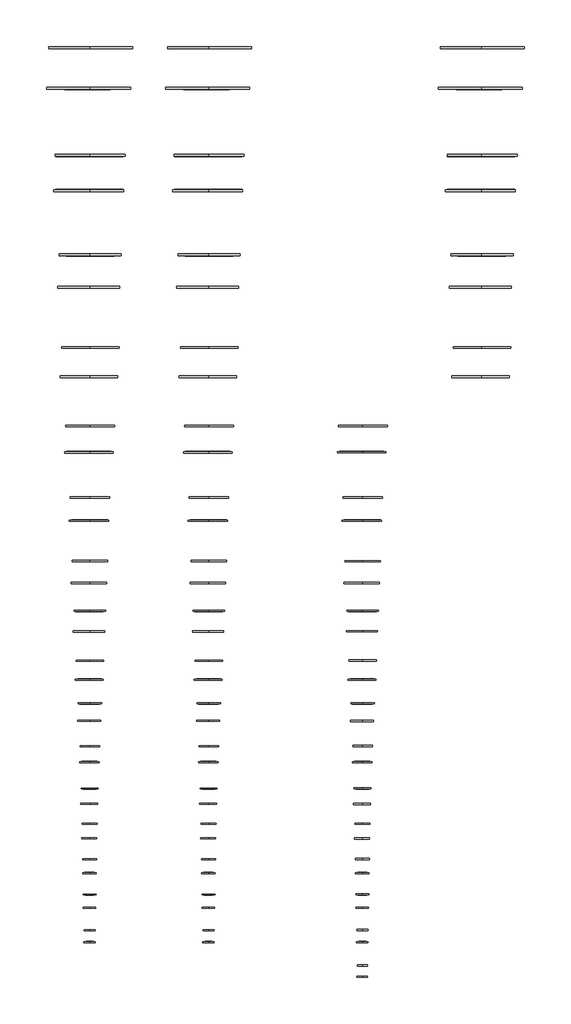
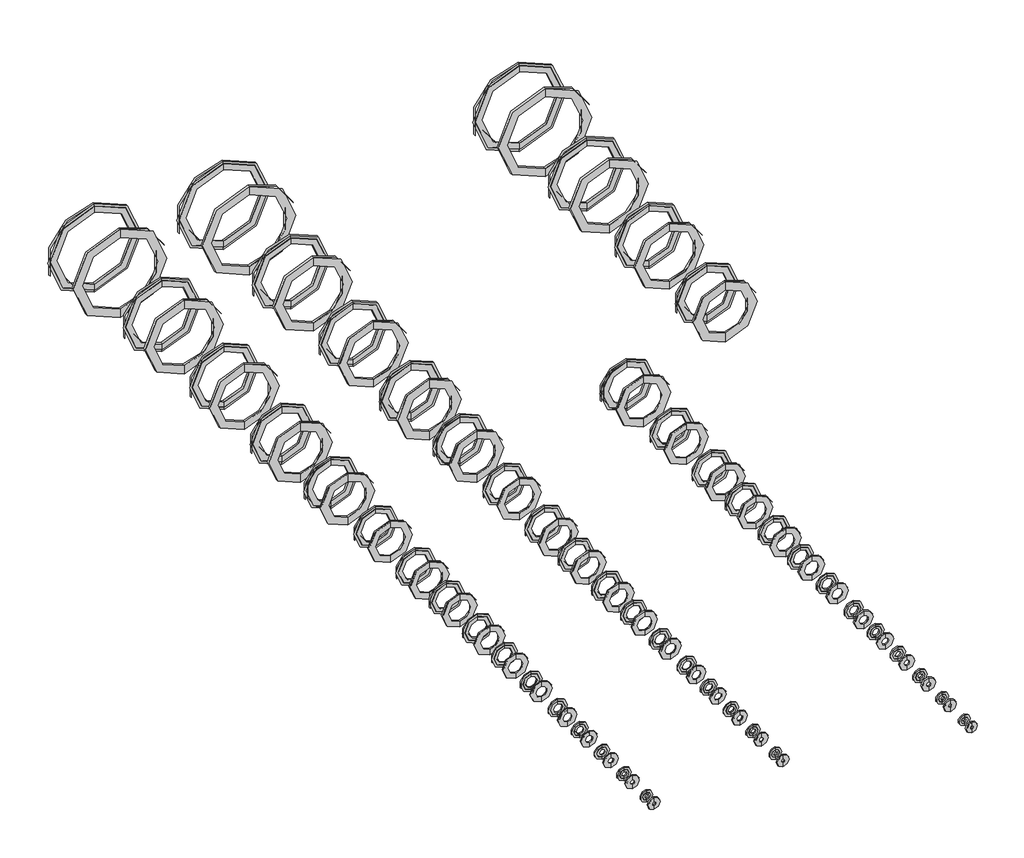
# One storey, incomplete: 98 pipe fittings.
"""IFC4 building model written with IfcOpenShell, lengths in millimetres."""

from ifc_helpers import new_model, si_unit, origin, place, context, project, spatial, transform, mapped, element, save
from components import pipe_fitting_ad0cda32, pipe_fitting_8ab3f06a, pipe_fitting_fec01fe7, pipe_fitting_0825bf11, pipe_fitting_f6bf362b, pipe_fitting_40df0e78, pipe_fitting_5c22ef08, pipe_fitting_ef6f4ca0, pipe_fitting_4f8dd1ce, pipe_fitting_00dcc9c6, pipe_fitting_479de25e, pipe_fitting_1e0624fc, pipe_fitting_c8a951b9, pipe_fitting_ccbc936c, pipe_fitting_422aa475, pipe_fitting_c62836a1, pipe_fitting_5b0ad892, pipe_fitting_62fc1cb5, pipe_fitting_9c8cf8b4, pipe_fitting_800c468c, pipe_fitting_22e410b1, pipe_fitting_1b7cc539, pipe_fitting_52b01f8b, pipe_fitting_8b49ddb3, pipe_fitting_f310c70f, pipe_fitting_f0c44933, pipe_fitting_e0bd70e7, pipe_fitting_f1d31873, pipe_fitting_2007be06

model = new_model("IFC4")

# Units and contexts
model_context = context("Model", 3, world=origin())
ifc_project = project(units=[si_unit("LENGTHUNIT", "METRE", prefix="MILLI")], contexts=[model_context])

# Site, building, storey
site = spatial("IfcSite", under=ifc_project)
building = spatial("IfcBuilding", under=site)
storey = spatial("IfcBuildingStorey", under=building, Name="Уровень 1", Elevation=0.0)

# Pipe fittings
placement = place(None, origin())
pipe_fitting_shape = pipe_fitting_ad0cda32(model_context)
element("IfcPipeFitting", 1, ObjectType="Фланец : Фланец", at=placement, inside=storey, context=model_context, shape_type="MappedRepresentation", body=[
    mapped(pipe_fitting_shape, transform((5187.2612918, -1367.1627549, 0.0), x_axis=(1.0, 0.0, 0.0), y_axis=(0.0, 1.0, 0.0), z_axis=(0.0, 0.0, 1.0))),
])
element("IfcPipeFitting", 2, ObjectType="Фланец : Фланец", at=placement, inside=storey, context=model_context, shape_type="MappedRepresentation", body=[
    mapped(pipe_fitting_shape, transform((5187.2612918, -875.7627549, 0.0), x_axis=(-1.0, 0.0, 0.0), y_axis=(0.0, -1.0, 0.0), z_axis=(0.0, 0.0, 1.0))),
])
element("IfcPipeFitting", 3, ObjectType="Фланец : Фланец", at=placement, inside=storey, context=model_context, shape_type="MappedRepresentation", body=[
    mapped(pipe_fitting_shape, transform((3487.2612918, -875.7627549, 0.0), x_axis=(-1.0, 0.0, 0.0), y_axis=(0.0, -1.0, 0.0), z_axis=(0.0, 0.0, 1.0))),
])
element("IfcPipeFitting", 4, ObjectType="Фланец : Фланец", at=placement, inside=storey, context=model_context, shape_type="MappedRepresentation", body=[
    mapped(pipe_fitting_shape, transform((3487.2612918, -1367.1627549, 0.0), x_axis=(1.0, 0.0, 0.0), y_axis=(0.0, 1.0, 0.0), z_axis=(0.0, 0.0, 1.0))),
])
element("IfcPipeFitting", 5, ObjectType="Фланец : Фланец", at=placement, inside=storey, context=model_context, shape_type="MappedRepresentation", body=[
    mapped(pipe_fitting_shape, transform((9087.2612918, -1367.1627549, 0.0), x_axis=(1.0, 0.0, 0.0), y_axis=(0.0, 1.0, 0.0), z_axis=(0.0, 0.0, 1.0))),
])
element("IfcPipeFitting", 6, ObjectType="Фланец : Фланец", at=placement, inside=storey, context=model_context, shape_type="MappedRepresentation", body=[
    mapped(pipe_fitting_shape, transform((9087.2612918, -875.7627549, 0.0), x_axis=(-1.0, 0.0, 0.0), y_axis=(0.0, -1.0, 0.0), z_axis=(0.0, 0.0, 1.0))),
])
pipe_fitting_2_shape = pipe_fitting_8ab3f06a(model_context)
element("IfcPipeFitting", 7, ObjectType="Фланец : Фланец", at=placement, inside=storey, context=model_context, shape_type="MappedRepresentation", body=[
    mapped(pipe_fitting_2_shape, transform((5187.2612918, -10712.2627549, 0.0), x_axis=(1.0, 0.0, 0.0), y_axis=(0.0, 1.0, 0.0), z_axis=(0.0, 0.0, 1.0))),
])
element("IfcPipeFitting", 8, ObjectType="Фланец : Фланец", at=placement, inside=storey, context=model_context, shape_type="MappedRepresentation", body=[
    mapped(pipe_fitting_2_shape, transform((5187.2612918, -10530.6627549, 0.0), x_axis=(-1.0, 0.0, 0.0), y_axis=(0.0, -1.0, 0.0), z_axis=(0.0, 0.0, 1.0))),
])
element("IfcPipeFitting", 9, ObjectType="Фланец : Фланец", at=placement, inside=storey, context=model_context, shape_type="MappedRepresentation", body=[
    mapped(pipe_fitting_2_shape, transform((3487.2612918, -10530.6627549, 0.0), x_axis=(-1.0, 0.0, 0.0), y_axis=(0.0, -1.0, 0.0), z_axis=(0.0, 0.0, 1.0))),
])
element("IfcPipeFitting", 10, ObjectType="Фланец : Фланец", at=placement, inside=storey, context=model_context, shape_type="MappedRepresentation", body=[
    mapped(pipe_fitting_2_shape, transform((3487.2612918, -10712.2627549, 0.0), x_axis=(1.0, 0.0, 0.0), y_axis=(0.0, 1.0, 0.0), z_axis=(0.0, 0.0, 1.0))),
])
pipe_fitting_3_shape = pipe_fitting_fec01fe7(model_context)
element("IfcPipeFitting", 11, ObjectType="Фланец : Фланец", at=placement, inside=storey, context=model_context, shape_type="MappedRepresentation", body=[
    mapped(pipe_fitting_3_shape, transform((5187.2612918, -2643.1627549, 0.0), x_axis=(1.0, 0.0, 0.0), y_axis=(0.0, 1.0, 0.0), z_axis=(0.0, 0.0, 1.0))),
])
element("IfcPipeFitting", 12, ObjectType="Фланец : Фланец", at=placement, inside=storey, context=model_context, shape_type="MappedRepresentation", body=[
    mapped(pipe_fitting_3_shape, transform((5187.2612918, -2199.7627549, 0.0), x_axis=(-1.0, 0.0, 0.0), y_axis=(0.0, -1.0, 0.0), z_axis=(0.0, 0.0, 1.0))),
])
element("IfcPipeFitting", 13, ObjectType="Фланец : Фланец", at=placement, inside=storey, context=model_context, shape_type="MappedRepresentation", body=[
    mapped(pipe_fitting_3_shape, transform((3487.2612918, -2199.7627549, 0.0), x_axis=(-1.0, 0.0, 0.0), y_axis=(0.0, -1.0, 0.0), z_axis=(0.0, 0.0, 1.0))),
])
element("IfcPipeFitting", 14, ObjectType="Фланец : Фланец", at=placement, inside=storey, context=model_context, shape_type="MappedRepresentation", body=[
    mapped(pipe_fitting_3_shape, transform((3487.2612918, -2643.1627549, 0.0), x_axis=(1.0, 0.0, 0.0), y_axis=(0.0, 1.0, 0.0), z_axis=(0.0, 0.0, 1.0))),
])
element("IfcPipeFitting", 15, ObjectType="Фланец : Фланец", at=placement, inside=storey, context=model_context, shape_type="MappedRepresentation", body=[
    mapped(pipe_fitting_3_shape, transform((9087.2612918, -2643.1627549, 0.0), x_axis=(1.0, 0.0, 0.0), y_axis=(0.0, 1.0, 0.0), z_axis=(0.0, 0.0, 1.0))),
])
element("IfcPipeFitting", 16, ObjectType="Фланец : Фланец", at=placement, inside=storey, context=model_context, shape_type="MappedRepresentation", body=[
    mapped(pipe_fitting_3_shape, transform((9087.2612918, -2199.7627549, 0.0), x_axis=(-1.0, 0.0, 0.0), y_axis=(0.0, -1.0, 0.0), z_axis=(0.0, 0.0, 1.0))),
])
pipe_fitting_4_shape = pipe_fitting_0825bf11(model_context)
element("IfcPipeFitting", 17, ObjectType="Фланец : Фланец", at=placement, inside=storey, context=model_context, shape_type="MappedRepresentation", body=[
    mapped(pipe_fitting_4_shape, transform((7387.2612918, -11211.4627549, 0.0), x_axis=(1.0, 0.0, 0.0), y_axis=(0.0, 1.0, 0.0), z_axis=(0.0, 0.0, 1.0))),
])
element("IfcPipeFitting", 18, ObjectType="Фланец : Фланец", at=placement, inside=storey, context=model_context, shape_type="MappedRepresentation", body=[
    mapped(pipe_fitting_4_shape, transform((7387.2612918, -11031.4627549, 0.0), x_axis=(-1.0, 0.0, 0.0), y_axis=(0.0, -1.0, 0.0), z_axis=(0.0, 0.0, 1.0))),
])
pipe_fitting_5_shape = pipe_fitting_f6bf362b(model_context)
element("IfcPipeFitting", 19, ObjectType="Фланец : Фланец", at=placement, inside=storey, context=model_context, shape_type="MappedRepresentation", body=[
    mapped(pipe_fitting_5_shape, transform((7387.2612918, -10716.4627549, 0.0), x_axis=(1.0, 0.0, 0.0), y_axis=(0.0, 1.0, 0.0), z_axis=(0.0, 0.0, 1.0))),
])
element("IfcPipeFitting", 20, ObjectType="Фланец : Фланец", at=placement, inside=storey, context=model_context, shape_type="MappedRepresentation", body=[
    mapped(pipe_fitting_5_shape, transform((7387.2612918, -10526.4627549, 0.0), x_axis=(-1.0, 0.0, 0.0), y_axis=(0.0, -1.0, 0.0), z_axis=(0.0, 0.0, 1.0))),
])
pipe_fitting_6_shape = pipe_fitting_40df0e78(model_context)
element("IfcPipeFitting", 21, ObjectType="Фланец : Фланец", at=placement, inside=storey, context=model_context, shape_type="MappedRepresentation", body=[
    mapped(pipe_fitting_6_shape, transform((7387.2612918, -10226.4627549, 0.0), x_axis=(1.0, 0.0, 0.0), y_axis=(0.0, 1.0, 0.0), z_axis=(0.0, 0.0, 1.0))),
])
element("IfcPipeFitting", 22, ObjectType="Фланец : Фланец", at=placement, inside=storey, context=model_context, shape_type="MappedRepresentation", body=[
    mapped(pipe_fitting_6_shape, transform((7387.2612918, -10016.4627549, 0.0), x_axis=(-1.0, 0.0, 0.0), y_axis=(0.0, -1.0, 0.0), z_axis=(0.0, 0.0, 1.0))),
])
pipe_fitting_7_shape = pipe_fitting_5c22ef08(model_context)
element("IfcPipeFitting", 23, ObjectType="Фланец : Фланец", at=placement, inside=storey, context=model_context, shape_type="MappedRepresentation", body=[
    mapped(pipe_fitting_7_shape, transform((7387.2612918, -9731.4627549, 0.0), x_axis=(1.0, 0.0, 0.0), y_axis=(0.0, 1.0, 0.0), z_axis=(0.0, 0.0, 1.0))),
])
element("IfcPipeFitting", 24, ObjectType="Фланец : Фланец", at=placement, inside=storey, context=model_context, shape_type="MappedRepresentation", body=[
    mapped(pipe_fitting_7_shape, transform((7387.2612918, -9511.4627549, 0.0), x_axis=(-1.0, 0.0, 0.0), y_axis=(0.0, -1.0, 0.0), z_axis=(0.0, 0.0, 1.0))),
])
pipe_fitting_8_shape = pipe_fitting_ef6f4ca0(model_context)
element("IfcPipeFitting", 25, ObjectType="Фланец : Фланец", at=placement, inside=storey, context=model_context, shape_type="MappedRepresentation", body=[
    mapped(pipe_fitting_8_shape, transform((7387.2612918, -9236.4627549, 0.0), x_axis=(1.0, 0.0, 0.0), y_axis=(0.0, 1.0, 0.0), z_axis=(0.0, 0.0, 1.0))),
])
element("IfcPipeFitting", 26, ObjectType="Фланец : Фланец", at=placement, inside=storey, context=model_context, shape_type="MappedRepresentation", body=[
    mapped(pipe_fitting_8_shape, transform((7387.2612918, -9006.4627549, 0.0), x_axis=(-1.0, 0.0, 0.0), y_axis=(0.0, -1.0, 0.0), z_axis=(0.0, 0.0, 1.0))),
])
pipe_fitting_9_shape = pipe_fitting_4f8dd1ce(model_context)
element("IfcPipeFitting", 27, ObjectType="Фланец : Фланец", at=placement, inside=storey, context=model_context, shape_type="MappedRepresentation", body=[
    mapped(pipe_fitting_9_shape, transform((7387.2612918, -8741.4627549, 0.0), x_axis=(1.0, 0.0, 0.0), y_axis=(0.0, 1.0, 0.0), z_axis=(0.0, 0.0, 1.0))),
])
element("IfcPipeFitting", 28, ObjectType="Фланец : Фланец", at=placement, inside=storey, context=model_context, shape_type="MappedRepresentation", body=[
    mapped(pipe_fitting_9_shape, transform((7387.2612918, -8501.4627549, 0.0), x_axis=(-1.0, 0.0, 0.0), y_axis=(0.0, -1.0, 0.0), z_axis=(0.0, 0.0, 1.0))),
])
pipe_fitting_10_shape = pipe_fitting_00dcc9c6(model_context)
element("IfcPipeFitting", 29, ObjectType="Фланец : Фланец", at=placement, inside=storey, context=model_context, shape_type="MappedRepresentation", body=[
    mapped(pipe_fitting_10_shape, transform((7387.2612918, -8146.4627549, 0.0), x_axis=(1.0, 0.0, 0.0), y_axis=(0.0, 1.0, 0.0), z_axis=(0.0, 0.0, 1.0))),
])
element("IfcPipeFitting", 30, ObjectType="Фланец : Фланец", at=placement, inside=storey, context=model_context, shape_type="MappedRepresentation", body=[
    mapped(pipe_fitting_10_shape, transform((7387.2612918, -7896.4627549, 0.0), x_axis=(-1.0, 0.0, 0.0), y_axis=(0.0, -1.0, 0.0), z_axis=(0.0, 0.0, 1.0))),
])
pipe_fitting_11_shape = pipe_fitting_479de25e(model_context)
element("IfcPipeFitting", 31, ObjectType="Фланец : Фланец", at=placement, inside=storey, context=model_context, shape_type="MappedRepresentation", body=[
    mapped(pipe_fitting_11_shape, transform((7387.2612918, -7556.4627549, 0.0), x_axis=(1.0, 0.0, 0.0), y_axis=(0.0, 1.0, 0.0), z_axis=(0.0, 0.0, 1.0))),
])
element("IfcPipeFitting", 32, ObjectType="Фланец : Фланец", at=placement, inside=storey, context=model_context, shape_type="MappedRepresentation", body=[
    mapped(pipe_fitting_11_shape, transform((7387.2612918, -7286.4627549, 0.0), x_axis=(-1.0, 0.0, 0.0), y_axis=(0.0, -1.0, 0.0), z_axis=(0.0, 0.0, 1.0))),
])
pipe_fitting_12_shape = pipe_fitting_1e0624fc(model_context)
element("IfcPipeFitting", 33, ObjectType="Фланец : Фланец", at=placement, inside=storey, context=model_context, shape_type="MappedRepresentation", body=[
    mapped(pipe_fitting_12_shape, transform((7387.2612918, -6966.4627549, 0.0), x_axis=(1.0, 0.0, 0.0), y_axis=(0.0, 1.0, 0.0), z_axis=(0.0, 0.0, 1.0))),
])
element("IfcPipeFitting", 34, ObjectType="Фланец : Фланец", at=placement, inside=storey, context=model_context, shape_type="MappedRepresentation", body=[
    mapped(pipe_fitting_12_shape, transform((7387.2612918, -6676.4627549, 0.0), x_axis=(-1.0, 0.0, 0.0), y_axis=(0.0, -1.0, 0.0), z_axis=(0.0, 0.0, 1.0))),
])
pipe_fitting_13_shape = pipe_fitting_c8a951b9(model_context)
element("IfcPipeFitting", 35, ObjectType="Фланец : Фланец", at=placement, inside=storey, context=model_context, shape_type="MappedRepresentation", body=[
    mapped(pipe_fitting_13_shape, transform((7387.2612918, -6276.4627549, 0.0), x_axis=(1.0, 0.0, 0.0), y_axis=(0.0, 1.0, 0.0), z_axis=(0.0, 0.0, 1.0))),
])
element("IfcPipeFitting", 36, ObjectType="Фланец : Фланец", at=placement, inside=storey, context=model_context, shape_type="MappedRepresentation", body=[
    mapped(pipe_fitting_13_shape, transform((7387.2612918, -5966.4627549, 0.0), x_axis=(-1.0, 0.0, 0.0), y_axis=(0.0, -1.0, 0.0), z_axis=(0.0, 0.0, 1.0))),
])
pipe_fitting_14_shape = pipe_fitting_ccbc936c(model_context)
element("IfcPipeFitting", 37, ObjectType="Фланец : Фланец", at=placement, inside=storey, context=model_context, shape_type="MappedRepresentation", body=[
    mapped(pipe_fitting_14_shape, transform((7387.2612918, -5586.4627549, 0.0), x_axis=(1.0, 0.0, 0.0), y_axis=(0.0, 1.0, 0.0), z_axis=(0.0, 0.0, 1.0))),
])
element("IfcPipeFitting", 38, ObjectType="Фланец : Фланец", at=placement, inside=storey, context=model_context, shape_type="MappedRepresentation", body=[
    mapped(pipe_fitting_14_shape, transform((7387.2612918, -5256.4627549, 0.0), x_axis=(-1.0, 0.0, 0.0), y_axis=(0.0, -1.0, 0.0), z_axis=(0.0, 0.0, 1.0))),
])
pipe_fitting_15_shape = pipe_fitting_422aa475(model_context)
element("IfcPipeFitting", 39, ObjectType="Фланец : Фланец", at=placement, inside=storey, context=model_context, shape_type="MappedRepresentation", body=[
    mapped(pipe_fitting_15_shape, transform((7387.2612918, -4696.4627549, 0.0), x_axis=(1.0, 0.0, 0.0), y_axis=(0.0, 1.0, 0.0), z_axis=(0.0, 0.0, 1.0))),
])
element("IfcPipeFitting", 40, ObjectType="Фланец : Фланец", at=placement, inside=storey, context=model_context, shape_type="MappedRepresentation", body=[
    mapped(pipe_fitting_15_shape, transform((7387.2612918, -4346.4627549, 0.0), x_axis=(-1.0, 0.0, 0.0), y_axis=(0.0, -1.0, 0.0), z_axis=(0.0, 0.0, 1.0))),
])
pipe_fitting_16_shape = pipe_fitting_c62836a1(model_context)
element("IfcPipeFitting", 41, ObjectType="Фланец : Фланец", at=placement, inside=storey, context=model_context, shape_type="MappedRepresentation", body=[
    mapped(pipe_fitting_16_shape, transform((7387.2612918, -3716.4627549, 0.0), x_axis=(1.0, 0.0, 0.0), y_axis=(0.0, 1.0, 0.0), z_axis=(0.0, 0.0, 1.0))),
])
element("IfcPipeFitting", 42, ObjectType="Фланец : Фланец", at=placement, inside=storey, context=model_context, shape_type="MappedRepresentation", body=[
    mapped(pipe_fitting_16_shape, transform((7387.2612918, -3326.4627549, 0.0), x_axis=(-1.0, 0.0, 0.0), y_axis=(0.0, -1.0, 0.0), z_axis=(0.0, 0.0, 1.0))),
])
pipe_fitting_17_shape = pipe_fitting_5b0ad892(model_context)
element("IfcPipeFitting", 43, ObjectType="Фланец : Фланец", at=placement, inside=storey, context=model_context, shape_type="MappedRepresentation", body=[
    mapped(pipe_fitting_17_shape, transform((5187.2612918, 547.4372451, 0.0), x_axis=(-1.0, 0.0, 0.0), y_axis=(0.0, -1.0, 0.0), z_axis=(0.0, 0.0, 1.0))),
])
element("IfcPipeFitting", 44, ObjectType="Фланец : Фланец", at=placement, inside=storey, context=model_context, shape_type="MappedRepresentation", body=[
    mapped(pipe_fitting_17_shape, transform((5187.2612918, 9.6372451, 0.0), x_axis=(1.0, 0.0, 0.0), y_axis=(0.0, 1.0, 0.0), z_axis=(0.0, 0.0, 1.0))),
])
element("IfcPipeFitting", 45, ObjectType="Фланец : Фланец", at=placement, inside=storey, context=model_context, shape_type="MappedRepresentation", body=[
    mapped(pipe_fitting_17_shape, transform((3487.2612918, 547.4372451, 0.0), x_axis=(-1.0, 0.0, 0.0), y_axis=(0.0, -1.0, 0.0), z_axis=(0.0, 0.0, 1.0))),
])
element("IfcPipeFitting", 46, ObjectType="Фланец : Фланец", at=placement, inside=storey, context=model_context, shape_type="MappedRepresentation", body=[
    mapped(pipe_fitting_17_shape, transform((3487.2612918, 9.6372451, 0.0), x_axis=(1.0, 0.0, 0.0), y_axis=(0.0, 1.0, 0.0), z_axis=(0.0, 0.0, 1.0))),
])
element("IfcPipeFitting", 47, ObjectType="Фланец : Фланец", at=placement, inside=storey, context=model_context, shape_type="MappedRepresentation", body=[
    mapped(pipe_fitting_17_shape, transform((9087.2612918, 9.6372451, 0.0), x_axis=(1.0, 0.0, 0.0), y_axis=(0.0, 1.0, 0.0), z_axis=(0.0, 0.0, 1.0))),
])
element("IfcPipeFitting", 48, ObjectType="Фланец : Фланец", at=placement, inside=storey, context=model_context, shape_type="MappedRepresentation", body=[
    mapped(pipe_fitting_17_shape, transform((9087.2612918, 547.4372451, 0.0), x_axis=(-1.0, 0.0, 0.0), y_axis=(0.0, -1.0, 0.0), z_axis=(0.0, 0.0, 1.0))),
])
pipe_fitting_18_shape = pipe_fitting_62fc1cb5(model_context)
element("IfcPipeFitting", 49, ObjectType="Фланец : Фланец", at=placement, inside=storey, context=model_context, shape_type="MappedRepresentation", body=[
    mapped(pipe_fitting_18_shape, transform((5187.2612918, 1471.8372451, 0.0), x_axis=(1.0, 0.0, 0.0), y_axis=(0.0, 1.0, 0.0), z_axis=(0.0, 0.0, 1.0))),
])
element("IfcPipeFitting", 50, ObjectType="Фланец : Фланец", at=placement, inside=storey, context=model_context, shape_type="MappedRepresentation", body=[
    mapped(pipe_fitting_18_shape, transform((5187.2612918, 2085.2372451, 0.0), x_axis=(-1.0, 0.0, 0.0), y_axis=(0.0, -1.0, 0.0), z_axis=(0.0, 0.0, 1.0))),
])
element("IfcPipeFitting", 51, ObjectType="Фланец : Фланец", at=placement, inside=storey, context=model_context, shape_type="MappedRepresentation", body=[
    mapped(pipe_fitting_18_shape, transform((3487.2612918, 2085.2372451, 0.0), x_axis=(-1.0, 0.0, 0.0), y_axis=(0.0, -1.0, 0.0), z_axis=(0.0, 0.0, 1.0))),
])
element("IfcPipeFitting", 52, ObjectType="Фланец : Фланец", at=placement, inside=storey, context=model_context, shape_type="MappedRepresentation", body=[
    mapped(pipe_fitting_18_shape, transform((3487.2612918, 1471.8372451, 0.0), x_axis=(1.0, 0.0, 0.0), y_axis=(0.0, 1.0, 0.0), z_axis=(0.0, 0.0, 1.0))),
])
element("IfcPipeFitting", 53, ObjectType="Фланец : Фланец", at=placement, inside=storey, context=model_context, shape_type="MappedRepresentation", body=[
    mapped(pipe_fitting_18_shape, transform((9087.2612918, 1471.8372451, 0.0), x_axis=(1.0, 0.0, 0.0), y_axis=(0.0, 1.0, 0.0), z_axis=(0.0, 0.0, 1.0))),
])
element("IfcPipeFitting", 54, ObjectType="Фланец : Фланец", at=placement, inside=storey, context=model_context, shape_type="MappedRepresentation", body=[
    mapped(pipe_fitting_18_shape, transform((9087.2612918, 2085.2372451, 0.0), x_axis=(-1.0, 0.0, 0.0), y_axis=(0.0, -1.0, 0.0), z_axis=(0.0, 0.0, 1.0))),
])
pipe_fitting_19_shape = pipe_fitting_9c8cf8b4(model_context)
element("IfcPipeFitting", 55, ObjectType="Фланец : Фланец", at=placement, inside=storey, context=model_context, shape_type="MappedRepresentation", body=[
    mapped(pipe_fitting_19_shape, transform((5187.2612918, -10222.2627549, 0.0), x_axis=(1.0, 0.0, 0.0), y_axis=(0.0, 1.0, 0.0), z_axis=(0.0, 0.0, 1.0))),
])
element("IfcPipeFitting", 56, ObjectType="Фланец : Фланец", at=placement, inside=storey, context=model_context, shape_type="MappedRepresentation", body=[
    mapped(pipe_fitting_19_shape, transform((5187.2612918, -10020.6627549, 0.0), x_axis=(-1.0, 0.0, 0.0), y_axis=(0.0, -1.0, 0.0), z_axis=(0.0, 0.0, 1.0))),
])
element("IfcPipeFitting", 57, ObjectType="Фланец : Фланец", at=placement, inside=storey, context=model_context, shape_type="MappedRepresentation", body=[
    mapped(pipe_fitting_19_shape, transform((3487.2612918, -10020.6627549, 0.0), x_axis=(-1.0, 0.0, 0.0), y_axis=(0.0, -1.0, 0.0), z_axis=(0.0, 0.0, 1.0))),
])
element("IfcPipeFitting", 58, ObjectType="Фланец : Фланец", at=placement, inside=storey, context=model_context, shape_type="MappedRepresentation", body=[
    mapped(pipe_fitting_19_shape, transform((3487.2612918, -10222.2627549, 0.0), x_axis=(1.0, 0.0, 0.0), y_axis=(0.0, 1.0, 0.0), z_axis=(0.0, 0.0, 1.0))),
])
pipe_fitting_20_shape = pipe_fitting_800c468c(model_context)
element("IfcPipeFitting", 59, ObjectType="Фланец : Фланец", at=placement, inside=storey, context=model_context, shape_type="MappedRepresentation", body=[
    mapped(pipe_fitting_20_shape, transform((5187.2612918, -9727.1627549, 0.0), x_axis=(1.0, 0.0, 0.0), y_axis=(0.0, 1.0, 0.0), z_axis=(0.0, 0.0, 1.0))),
])
element("IfcPipeFitting", 60, ObjectType="Фланец : Фланец", at=placement, inside=storey, context=model_context, shape_type="MappedRepresentation", body=[
    mapped(pipe_fitting_20_shape, transform((5187.2612918, -9515.7627549, 0.0), x_axis=(-1.0, 0.0, 0.0), y_axis=(0.0, -1.0, 0.0), z_axis=(0.0, 0.0, 1.0))),
])
element("IfcPipeFitting", 61, ObjectType="Фланец : Фланец", at=placement, inside=storey, context=model_context, shape_type="MappedRepresentation", body=[
    mapped(pipe_fitting_20_shape, transform((3487.2612918, -9515.7627549, 0.0), x_axis=(-1.0, 0.0, 0.0), y_axis=(0.0, -1.0, 0.0), z_axis=(0.0, 0.0, 1.0))),
])
element("IfcPipeFitting", 62, ObjectType="Фланец : Фланец", at=placement, inside=storey, context=model_context, shape_type="MappedRepresentation", body=[
    mapped(pipe_fitting_20_shape, transform((3487.2612918, -9727.1627549, 0.0), x_axis=(1.0, 0.0, 0.0), y_axis=(0.0, 1.0, 0.0), z_axis=(0.0, 0.0, 1.0))),
])
pipe_fitting_21_shape = pipe_fitting_22e410b1(model_context)
element("IfcPipeFitting", 63, ObjectType="Фланец : Фланец", at=placement, inside=storey, context=model_context, shape_type="MappedRepresentation", body=[
    mapped(pipe_fitting_21_shape, transform((5187.2612918, -9232.1627549, 0.0), x_axis=(1.0, 0.0, 0.0), y_axis=(0.0, 1.0, 0.0), z_axis=(0.0, 0.0, 1.0))),
])
element("IfcPipeFitting", 64, ObjectType="Фланец : Фланец", at=placement, inside=storey, context=model_context, shape_type="MappedRepresentation", body=[
    mapped(pipe_fitting_21_shape, transform((5187.2612918, -9010.7627549, 0.0), x_axis=(-1.0, 0.0, 0.0), y_axis=(0.0, -1.0, 0.0), z_axis=(0.0, 0.0, 1.0))),
])
element("IfcPipeFitting", 65, ObjectType="Фланец : Фланец", at=placement, inside=storey, context=model_context, shape_type="MappedRepresentation", body=[
    mapped(pipe_fitting_21_shape, transform((3487.2612918, -9010.7627549, 0.0), x_axis=(-1.0, 0.0, 0.0), y_axis=(0.0, -1.0, 0.0), z_axis=(0.0, 0.0, 1.0))),
])
element("IfcPipeFitting", 66, ObjectType="Фланец : Фланец", at=placement, inside=storey, context=model_context, shape_type="MappedRepresentation", body=[
    mapped(pipe_fitting_21_shape, transform((3487.2612918, -9232.1627549, 0.0), x_axis=(1.0, 0.0, 0.0), y_axis=(0.0, 1.0, 0.0), z_axis=(0.0, 0.0, 1.0))),
])
pipe_fitting_22_shape = pipe_fitting_1b7cc539(model_context)
element("IfcPipeFitting", 67, ObjectType="Фланец : Фланец", at=placement, inside=storey, context=model_context, shape_type="MappedRepresentation", body=[
    mapped(pipe_fitting_22_shape, transform((5187.2612918, -8737.2627549, 0.0), x_axis=(1.0, 0.0, 0.0), y_axis=(0.0, 1.0, 0.0), z_axis=(0.0, 0.0, 1.0))),
])
element("IfcPipeFitting", 68, ObjectType="Фланец : Фланец", at=placement, inside=storey, context=model_context, shape_type="MappedRepresentation", body=[
    mapped(pipe_fitting_22_shape, transform((5187.2612918, -8505.6627549, 0.0), x_axis=(-1.0, 0.0, 0.0), y_axis=(0.0, -1.0, 0.0), z_axis=(0.0, 0.0, 1.0))),
])
element("IfcPipeFitting", 69, ObjectType="Фланец : Фланец", at=placement, inside=storey, context=model_context, shape_type="MappedRepresentation", body=[
    mapped(pipe_fitting_22_shape, transform((3487.2612918, -8505.6627549, 0.0), x_axis=(-1.0, 0.0, 0.0), y_axis=(0.0, -1.0, 0.0), z_axis=(0.0, 0.0, 1.0))),
])
element("IfcPipeFitting", 70, ObjectType="Фланец : Фланец", at=placement, inside=storey, context=model_context, shape_type="MappedRepresentation", body=[
    mapped(pipe_fitting_22_shape, transform((3487.2612918, -8737.2627549, 0.0), x_axis=(1.0, 0.0, 0.0), y_axis=(0.0, 1.0, 0.0), z_axis=(0.0, 0.0, 1.0))),
])
pipe_fitting_23_shape = pipe_fitting_52b01f8b(model_context)
element("IfcPipeFitting", 71, ObjectType="Фланец : Фланец", at=placement, inside=storey, context=model_context, shape_type="MappedRepresentation", body=[
    mapped(pipe_fitting_23_shape, transform((5187.2612918, -8141.7627549, 0.0), x_axis=(1.0, 0.0, 0.0), y_axis=(0.0, 1.0, 0.0), z_axis=(0.0, 0.0, 1.0))),
])
element("IfcPipeFitting", 72, ObjectType="Фланец : Фланец", at=placement, inside=storey, context=model_context, shape_type="MappedRepresentation", body=[
    mapped(pipe_fitting_23_shape, transform((5187.2612918, -7901.1627549, 0.0), x_axis=(-1.0, 0.0, 0.0), y_axis=(0.0, -1.0, 0.0), z_axis=(0.0, 0.0, 1.0))),
])
element("IfcPipeFitting", 73, ObjectType="Фланец : Фланец", at=placement, inside=storey, context=model_context, shape_type="MappedRepresentation", body=[
    mapped(pipe_fitting_23_shape, transform((3487.2612918, -7901.1627549, 0.0), x_axis=(-1.0, 0.0, 0.0), y_axis=(0.0, -1.0, 0.0), z_axis=(0.0, 0.0, 1.0))),
])
element("IfcPipeFitting", 74, ObjectType="Фланец : Фланец", at=placement, inside=storey, context=model_context, shape_type="MappedRepresentation", body=[
    mapped(pipe_fitting_23_shape, transform((3487.2612918, -8141.7627549, 0.0), x_axis=(1.0, 0.0, 0.0), y_axis=(0.0, 1.0, 0.0), z_axis=(0.0, 0.0, 1.0))),
])
pipe_fitting_24_shape = pipe_fitting_8b49ddb3(model_context)
element("IfcPipeFitting", 75, ObjectType="Фланец : Фланец", at=placement, inside=storey, context=model_context, shape_type="MappedRepresentation", body=[
    mapped(pipe_fitting_24_shape, transform((5187.2612918, -7553.6627549, 0.0), x_axis=(1.0, 0.0, 0.0), y_axis=(0.0, 1.0, 0.0), z_axis=(0.0, 0.0, 1.0))),
])
element("IfcPipeFitting", 76, ObjectType="Фланец : Фланец", at=placement, inside=storey, context=model_context, shape_type="MappedRepresentation", body=[
    mapped(pipe_fitting_24_shape, transform((5187.2612918, -7289.2627549, 0.0), x_axis=(-1.0, 0.0, 0.0), y_axis=(0.0, -1.0, 0.0), z_axis=(0.0, 0.0, 1.0))),
])
element("IfcPipeFitting", 77, ObjectType="Фланец : Фланец", at=placement, inside=storey, context=model_context, shape_type="MappedRepresentation", body=[
    mapped(pipe_fitting_24_shape, transform((3487.2612918, -7289.2627549, 0.0), x_axis=(-1.0, 0.0, 0.0), y_axis=(0.0, -1.0, 0.0), z_axis=(0.0, 0.0, 1.0))),
])
element("IfcPipeFitting", 78, ObjectType="Фланец : Фланец", at=placement, inside=storey, context=model_context, shape_type="MappedRepresentation", body=[
    mapped(pipe_fitting_24_shape, transform((3487.2612918, -7553.6627549, 0.0), x_axis=(1.0, 0.0, 0.0), y_axis=(0.0, 1.0, 0.0), z_axis=(0.0, 0.0, 1.0))),
])
pipe_fitting_25_shape = pipe_fitting_f310c70f(model_context)
element("IfcPipeFitting", 79, ObjectType="Фланец : Фланец", at=placement, inside=storey, context=model_context, shape_type="MappedRepresentation", body=[
    mapped(pipe_fitting_25_shape, transform((5187.2612918, -6964.6627549, 0.0), x_axis=(1.0, 0.0, 0.0), y_axis=(0.0, 1.0, 0.0), z_axis=(0.0, 0.0, 1.0))),
])
element("IfcPipeFitting", 80, ObjectType="Фланец : Фланец", at=placement, inside=storey, context=model_context, shape_type="MappedRepresentation", body=[
    mapped(pipe_fitting_25_shape, transform((5187.2612918, -6678.2627549, 0.0), x_axis=(-1.0, 0.0, 0.0), y_axis=(0.0, -1.0, 0.0), z_axis=(0.0, 0.0, 1.0))),
])
element("IfcPipeFitting", 81, ObjectType="Фланец : Фланец", at=placement, inside=storey, context=model_context, shape_type="MappedRepresentation", body=[
    mapped(pipe_fitting_25_shape, transform((3487.2612918, -6678.2627549, 0.0), x_axis=(-1.0, 0.0, 0.0), y_axis=(0.0, -1.0, 0.0), z_axis=(0.0, 0.0, 1.0))),
])
element("IfcPipeFitting", 82, ObjectType="Фланец : Фланец", at=placement, inside=storey, context=model_context, shape_type="MappedRepresentation", body=[
    mapped(pipe_fitting_25_shape, transform((3487.2612918, -6964.6627549, 0.0), x_axis=(1.0, 0.0, 0.0), y_axis=(0.0, 1.0, 0.0), z_axis=(0.0, 0.0, 1.0))),
])
pipe_fitting_26_shape = pipe_fitting_f0c44933(model_context)
element("IfcPipeFitting", 83, ObjectType="Фланец : Фланец", at=placement, inside=storey, context=model_context, shape_type="MappedRepresentation", body=[
    mapped(pipe_fitting_26_shape, transform((5187.2612918, -6277.1627549, 0.0), x_axis=(1.0, 0.0, 0.0), y_axis=(0.0, 1.0, 0.0), z_axis=(0.0, 0.0, 1.0))),
])
element("IfcPipeFitting", 84, ObjectType="Фланец : Фланец", at=placement, inside=storey, context=model_context, shape_type="MappedRepresentation", body=[
    mapped(pipe_fitting_26_shape, transform((5187.2612918, -5965.7627549, 0.0), x_axis=(-1.0, 0.0, 0.0), y_axis=(0.0, -1.0, 0.0), z_axis=(0.0, 0.0, 1.0))),
])
element("IfcPipeFitting", 85, ObjectType="Фланец : Фланец", at=placement, inside=storey, context=model_context, shape_type="MappedRepresentation", body=[
    mapped(pipe_fitting_26_shape, transform((3487.2612918, -5965.7627549, 0.0), x_axis=(-1.0, 0.0, 0.0), y_axis=(0.0, -1.0, 0.0), z_axis=(0.0, 0.0, 1.0))),
])
element("IfcPipeFitting", 86, ObjectType="Фланец : Фланец", at=placement, inside=storey, context=model_context, shape_type="MappedRepresentation", body=[
    mapped(pipe_fitting_26_shape, transform((3487.2612918, -6277.1627549, 0.0), x_axis=(1.0, 0.0, 0.0), y_axis=(0.0, 1.0, 0.0), z_axis=(0.0, 0.0, 1.0))),
])
pipe_fitting_27_shape = pipe_fitting_e0bd70e7(model_context)
element("IfcPipeFitting", 87, ObjectType="Фланец : Фланец", at=placement, inside=storey, context=model_context, shape_type="MappedRepresentation", body=[
    mapped(pipe_fitting_27_shape, transform((5187.2612918, -5587.3627549, 0.0), x_axis=(1.0, 0.0, 0.0), y_axis=(0.0, 1.0, 0.0), z_axis=(0.0, 0.0, 1.0))),
])
element("IfcPipeFitting", 88, ObjectType="Фланец : Фланец", at=placement, inside=storey, context=model_context, shape_type="MappedRepresentation", body=[
    mapped(pipe_fitting_27_shape, transform((5187.2612918, -5255.5627549, 0.0), x_axis=(-1.0, 0.0, 0.0), y_axis=(0.0, -1.0, 0.0), z_axis=(0.0, 0.0, 1.0))),
])
element("IfcPipeFitting", 89, ObjectType="Фланец : Фланец", at=placement, inside=storey, context=model_context, shape_type="MappedRepresentation", body=[
    mapped(pipe_fitting_27_shape, transform((3487.2612918, -5255.5627549, 0.0), x_axis=(-1.0, 0.0, 0.0), y_axis=(0.0, -1.0, 0.0), z_axis=(0.0, 0.0, 1.0))),
])
element("IfcPipeFitting", 90, ObjectType="Фланец : Фланец", at=placement, inside=storey, context=model_context, shape_type="MappedRepresentation", body=[
    mapped(pipe_fitting_27_shape, transform((3487.2612918, -5587.3627549, 0.0), x_axis=(1.0, 0.0, 0.0), y_axis=(0.0, 1.0, 0.0), z_axis=(0.0, 0.0, 1.0))),
])
pipe_fitting_28_shape = pipe_fitting_f1d31873(model_context)
element("IfcPipeFitting", 91, ObjectType="Фланец : Фланец", at=placement, inside=storey, context=model_context, shape_type="MappedRepresentation", body=[
    mapped(pipe_fitting_28_shape, transform((5187.2612918, -4697.4627549, 0.0), x_axis=(1.0, 0.0, 0.0), y_axis=(0.0, 1.0, 0.0), z_axis=(0.0, 0.0, 1.0))),
])
element("IfcPipeFitting", 92, ObjectType="Фланец : Фланец", at=placement, inside=storey, context=model_context, shape_type="MappedRepresentation", body=[
    mapped(pipe_fitting_28_shape, transform((5187.2612918, -4345.4627549, 0.0), x_axis=(-1.0, 0.0, 0.0), y_axis=(0.0, -1.0, 0.0), z_axis=(0.0, 0.0, 1.0))),
])
element("IfcPipeFitting", 93, ObjectType="Фланец : Фланец", at=placement, inside=storey, context=model_context, shape_type="MappedRepresentation", body=[
    mapped(pipe_fitting_28_shape, transform((3487.2612918, -4345.4627549, 0.0), x_axis=(-1.0, 0.0, 0.0), y_axis=(0.0, -1.0, 0.0), z_axis=(0.0, 0.0, 1.0))),
])
element("IfcPipeFitting", 94, ObjectType="Фланец : Фланец", at=placement, inside=storey, context=model_context, shape_type="MappedRepresentation", body=[
    mapped(pipe_fitting_28_shape, transform((3487.2612918, -4697.4627549, 0.0), x_axis=(1.0, 0.0, 0.0), y_axis=(0.0, 1.0, 0.0), z_axis=(0.0, 0.0, 1.0))),
])
pipe_fitting_29_shape = pipe_fitting_2007be06(model_context)
element("IfcPipeFitting", 95, ObjectType="Фланец : Фланец", at=placement, inside=storey, context=model_context, shape_type="MappedRepresentation", body=[
    mapped(pipe_fitting_29_shape, transform((5187.2612918, -3721.0627549, 0.0), x_axis=(1.0, 0.0, 0.0), y_axis=(0.0, 1.0, 0.0), z_axis=(0.0, 0.0, 1.0))),
])
element("IfcPipeFitting", 96, ObjectType="Фланец : Фланец", at=placement, inside=storey, context=model_context, shape_type="MappedRepresentation", body=[
    mapped(pipe_fitting_29_shape, transform((5187.2612918, -3321.8627549, 0.0), x_axis=(-1.0, 0.0, 0.0), y_axis=(0.0, -1.0, 0.0), z_axis=(0.0, 0.0, 1.0))),
])
element("IfcPipeFitting", 97, ObjectType="Фланец : Фланец", at=placement, inside=storey, context=model_context, shape_type="MappedRepresentation", body=[
    mapped(pipe_fitting_29_shape, transform((3487.2612918, -3321.8627549, 0.0), x_axis=(-1.0, 0.0, 0.0), y_axis=(0.0, -1.0, 0.0), z_axis=(0.0, 0.0, 1.0))),
])
element("IfcPipeFitting", 98, ObjectType="Фланец : Фланец", at=placement, inside=storey, context=model_context, shape_type="MappedRepresentation", body=[
    mapped(pipe_fitting_29_shape, transform((3487.2612918, -3721.0627549, 0.0), x_axis=(1.0, 0.0, 0.0), y_axis=(0.0, 1.0, 0.0), z_axis=(0.0, 0.0, 1.0))),
])

save(model, "model.ifc")
